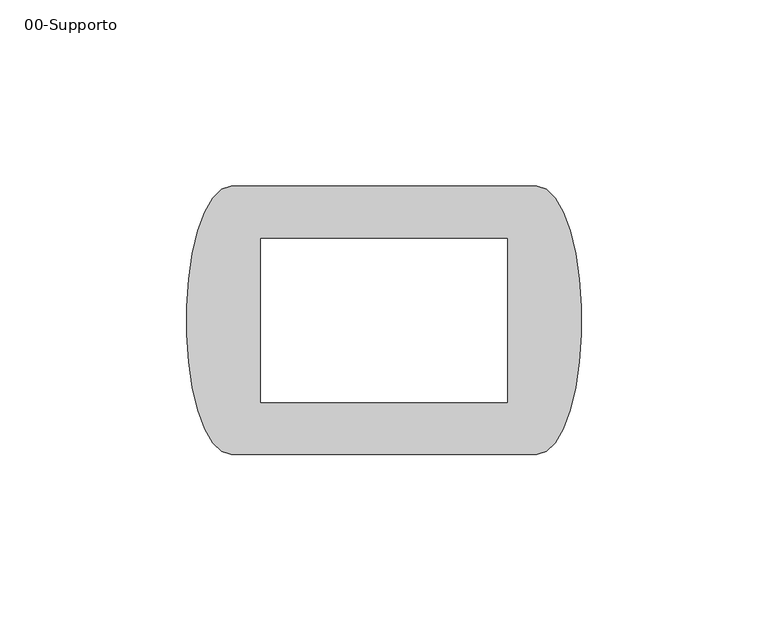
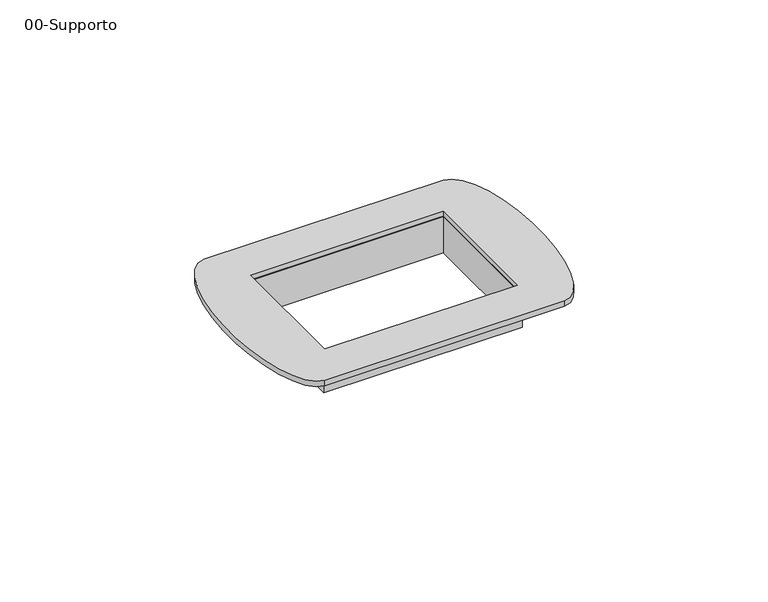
"""IFC4 building model written with IfcOpenShell, lengths in millimetres: proxy geometry, 00-Supporto : Supporto 3 moduli."""

from ifc_helpers import new_model, si_unit, point, frame, origin, place, context, project, spatial, polyline, ellipse_curve, trimmed, outline, extrude, source, transform, mapped, element, save
from ifc_brep_helpers import plane_surface, extruded_surface, advanced_brep


def proxy_00_supporto_e62e41bb(model_context):
    return source(origin(), model_context, "Body", "SolidModel", [
        extrude(outline(polyline([(34.0, -23.0), (-34.0, -23.0), (-34.0, 23.0), (34.0, 23.0), (34.0, -23.0)]), holes=[polyline([(-33.0, 22.0), (-33.0, -22.0), (33.0, -22.0), (33.0, 22.0), (-33.0, 22.0)])]), frame((0.0, 0.0, -13.0), z_axis=(0.0, 0.0, 1.0), x_axis=(1.0, 0.0, 0.0)), (0.0, 0.0, 1.0), 13.0),
        advanced_brep(
        [(41.0, 36.0, 2.0), (-41.0, 36.0, 2.0), (-41.0, -36.0, 2.0), (41.0, -36.0, 2.0), (-33.0, -22.0, 2.0), (-33.0, 22.0, 2.0), (33.0, 22.0, 2.0), (33.0, -22.0, 2.0), (41.0, 36.0, 0.0), (41.0, -36.0, 0.0), (-41.0, -36.0, 0.0), (-41.0, 36.0, 0.0), (-33.0, -22.0, 0.0), (33.0, -22.0, 0.0), (33.0, 22.0, 0.0), (-33.0, 22.0, 0.0)],
        [
            (0, 1),
            (1, 2, ellipse_curve(frame((-41.0, 0.0, 2.0), z_axis=(0.0, 0.0, 1.0), x_axis=(0.0, -1.0, 0.0)), 36.0, 12.0)),
            (2, 3),
            (3, 0, ellipse_curve(frame((41.0, 0.0, 2.0), z_axis=(0.0, 0.0, 1.0), x_axis=(0.0, 1.0, 0.0)), 36.0, 12.0)),
            (4, 5),
            (5, 6),
            (6, 7),
            (7, 4),
            (8, 9, ellipse_curve(frame((41.0, 0.0, 0.0), z_axis=(0.0, 0.0, -1.0), x_axis=(0.0, 1.0, 0.0)), 36.0, 12.0)),
            (9, 10),
            (10, 11, ellipse_curve(frame((-41.0, 0.0, 0.0), z_axis=(0.0, 0.0, -1.0), x_axis=(0.0, -1.0, 0.0)), 36.0, 12.0)),
            (11, 8),
            (12, 13),
            (13, 14),
            (14, 15),
            (15, 12),
            (0, 8),
            (11, 1),
            (2, 10),
            (9, 3),
            (4, 12),
            (15, 5),
            (14, 6),
            (13, 7),
        ],
        [
            plane_surface(frame((-41.0, 36.0, 2.0), z_axis=(0.0, 0.0, 1.0), x_axis=(-1.0, 0.0, 0.0))),
            plane_surface(frame((-41.0, 36.0, 0.0), z_axis=(0.0, 0.0, -1.0), x_axis=(1.0, 0.0, 0.0))),
            plane_surface(frame((41.0, 36.0, 2.0), z_axis=(0.0, 1.0, 0.0), x_axis=(0.0, 0.0, -1.0))),
            plane_surface(frame((-41.0, -36.0, 2.0), z_axis=(0.0, -1.0, 0.0), x_axis=(0.0, 0.0, -1.0))),
            plane_surface(frame((-33.0, -22.0, 2.0), z_axis=(1.0, 0.0, 0.0), x_axis=(0.0, 0.0, -1.0))),
            plane_surface(frame((-33.0, 22.0, 2.0), z_axis=(0.0, -1.0, 0.0), x_axis=(0.0, 0.0, -1.0))),
            plane_surface(frame((33.0, 22.0, 2.0), z_axis=(-1.0, 0.0, 0.0), x_axis=(0.0, 0.0, -1.0))),
            plane_surface(frame((33.0, -22.0, 2.0), z_axis=(0.0, 1.0, 0.0), x_axis=(0.0, 0.0, -1.0))),
            extruded_surface(trimmed(ellipse_curve(frame((41.0, 0.0, -2.0), z_axis=(0.0, 0.0, 1.0), x_axis=(0.0, 1.0, 0.0)), 36.0, 12.0), [point((41.0, -36.0, -2.0))], [point((41.0, 36.0, -2.0))], True, "CARTESIAN"), (0.0, 0.0, 2.0), 2.0),
            extruded_surface(trimmed(ellipse_curve(frame((-41.0, 0.0, -2.0), z_axis=(0.0, 0.0, 1.0), x_axis=(0.0, -1.0, 0.0)), 36.0, 12.0), [point((-41.0, 36.0, -2.0))], [point((-41.0, -36.0, -2.0))], True, "CARTESIAN"), (0.0, 0.0, 2.0), 2.0),
        ],
        [
            (0, [[1, 2, 3, 4], [5, 6, 7, 8]]),
            (1, [[9, 10, 11, 12], [13, 14, 15, 16]]),
            (2, [[-1, 17, -12, 18]]),
            (3, [[-3, 19, -10, 20]]),
            (4, [[-5, 21, -16, 22]]),
            (5, [[-6, -22, -15, 23]]),
            (6, [[-7, -23, -14, 24]]),
            (7, [[-8, -24, -13, -21]]),
            (8, [[-4, -20, -9, -17]]),
            (9, [[-2, -18, -11, -19]]),
        ],
    ),
    ])


if __name__ == "__main__":
    model = new_model("IFC4")
    model_context = context("Model", 3, world=origin())
    ifc_project = project(units=[si_unit("LENGTHUNIT", "METRE", prefix="MILLI")], contexts=[model_context])
    site = spatial("IfcSite", under=ifc_project)
    building = spatial("IfcBuilding", under=site)
    placement = place(None, origin())
    proxy_00_supporto_shape = proxy_00_supporto_e62e41bb(model_context)
    element("IfcBuildingElementProxy", 1, Name="00-Supporto : Supporto 3 moduli", ObjectType="00-Supporto : Supporto 3 moduli", at=placement, inside=building, context=model_context, shape_type="MappedRepresentation", body=[
        mapped(proxy_00_supporto_shape, transform((0.0, 0.0, 0.0), x_axis=(1.0, 0.0, 0.0), y_axis=(0.0, 1.0, 0.0), z_axis=(0.0, 0.0, 1.0))),
    ])
    save(model, "model.ifc")
